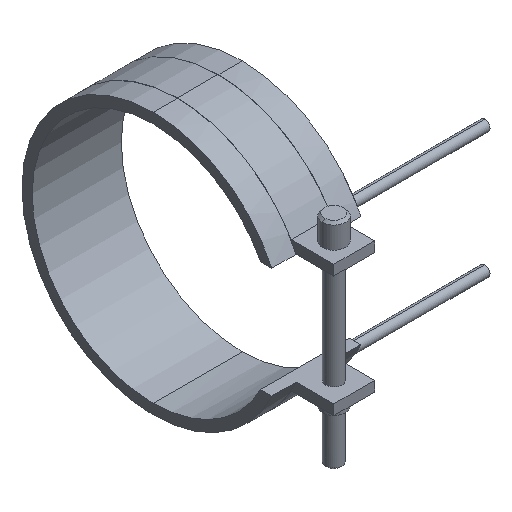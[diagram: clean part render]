
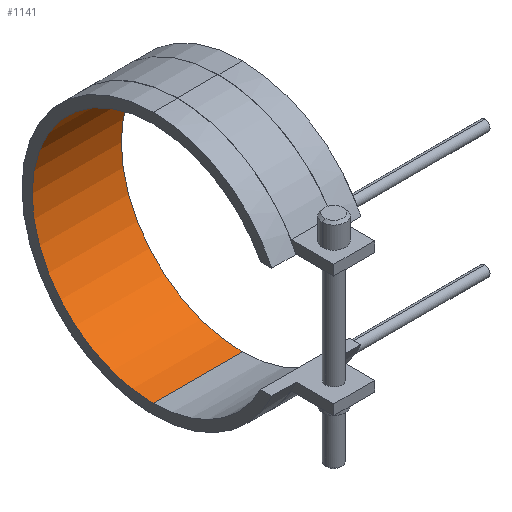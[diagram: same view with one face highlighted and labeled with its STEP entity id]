
A CAD part, isometric view. The second image highlights one B-rep face of the part: STEP entity #1141.
In plain terms, the highlighted cylindrical face has radius 47.5 mm (diameter 95 mm), a partial arc.
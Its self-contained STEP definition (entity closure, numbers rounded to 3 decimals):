
#822=CARTESIAN_POINT('Vertex',(-17.5,0.,-47.5)) ;
#829=CARTESIAN_POINT('Vertex',(17.5,0.,-47.5)) ;
#832=CARTESIAN_POINT('Line Origine',(17.5,0.,-47.5)) ;
#850=CARTESIAN_POINT('Axis2P3D Location',(-17.5,0.,0.)) ;
#854=CARTESIAN_POINT('Vertex',(-17.5,0.,47.5)) ;
#911=CARTESIAN_POINT('Vertex',(17.5,0.,47.5)) ;
#921=CARTESIAN_POINT('Line Origine',(17.5,0.,47.5)) ;
#1012=CARTESIAN_POINT('Axis2P3D Location',(17.5,0.,0.)) ;
#1130=CARTESIAN_POINT('Axis2P3D Location',(17.5,0.,0.)) ;
#833=DIRECTION('Vector Direction',(1.,0.,0.)) ;
#851=DIRECTION('Axis2P3D Direction',(1.,0.,0.)) ;
#922=DIRECTION('Vector Direction',(1.,0.,0.)) ;
#1013=DIRECTION('Axis2P3D Direction',(1.,0.,0.)) ;
#1131=DIRECTION('Axis2P3D Direction',(1.,0.,-0.)) ;
#1132=DIRECTION('Axis2P3D XDirection',(0.,0.,-1.)) ;
#852=AXIS2_PLACEMENT_3D('Circle Axis2P3D',#850,#851,$) ;
#1014=AXIS2_PLACEMENT_3D('Circle Axis2P3D',#1012,#1013,$) ;
#1133=AXIS2_PLACEMENT_3D('Cylinder Axis2P3D',#1130,#1131,#1132) ;
#1136=ORIENTED_EDGE('',*,*,#1016,.T.) ;
#1137=ORIENTED_EDGE('',*,*,#925,.T.) ;
#1138=ORIENTED_EDGE('',*,*,#856,.F.) ;
#1139=ORIENTED_EDGE('',*,*,#836,.T.) ;
#834=VECTOR('Line Direction',#833,1.) ;
#923=VECTOR('Line Direction',#922,1.) ;
#1141=ADVANCED_FACE('14095035',(#1140),#1134,.F.) ;
#853=CIRCLE('generated circle',#852,47.5) ;
#1015=CIRCLE('generated circle',#1014,47.5) ;
#1134=CYLINDRICAL_SURFACE('generated cylinder',#1133,47.5) ;
#836=EDGE_CURVE('',#823,#830,#835,.T.) ;
#856=EDGE_CURVE('',#823,#855,#853,.T.) ;
#925=EDGE_CURVE('',#912,#855,#924,.F.) ;
#1016=EDGE_CURVE('',#830,#912,#1015,.T.) ;
#1135=EDGE_LOOP('',(#1136,#1137,#1138,#1139)) ;
#1140=FACE_OUTER_BOUND('',#1135,.T.) ;
#835=LINE('Line',#832,#834) ;
#924=LINE('Line',#921,#923) ;
#823=VERTEX_POINT('',#822) ;
#830=VERTEX_POINT('',#829) ;
#855=VERTEX_POINT('',#854) ;
#912=VERTEX_POINT('',#911) ;
